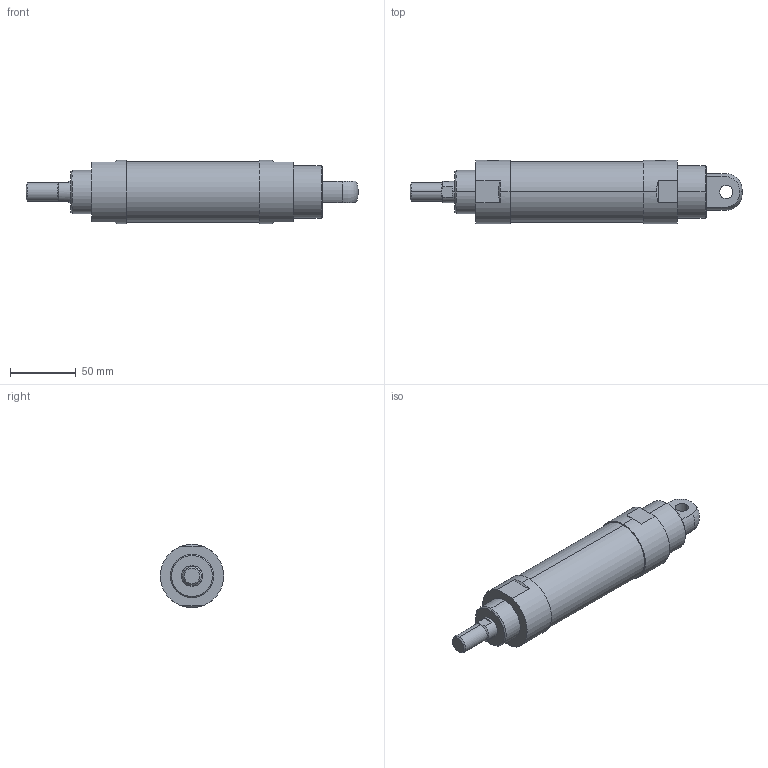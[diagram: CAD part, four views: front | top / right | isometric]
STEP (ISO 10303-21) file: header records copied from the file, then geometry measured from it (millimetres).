
FILE_DESCRIPTION (( 'STEP AP203' ), '1' );
FILE_NAME ('J#2-40-50-C.STEP', '2016-03-08T07:53:42', ( '' ), ( '' ), 'SwSTEP 2.0', 'SolidWorks 2014', '' );
FILE_SCHEMA (( 'CONFIG_CONTROL_DESIGN' ));
Length unit declared in the file: millimetre
Products named in the file (1): J#2-40-50-C
Bounding box: 252 x 48 x 48 mm (x, y, z)
Volume: 313883.6 mm3; surface area: 35470.8 mm2
Topology: 1 solids, 1 shells, 59 faces, 138 edges, 85 vertices
Faces by surface type: cylinder 22, plane 20, cone 15, torus 2
Entity records: 1988 total; most frequent: CARTESIAN_POINT 566, DIRECTION 293, ORIENTED_EDGE 268, EDGE_CURVE 134, AXIS2_PLACEMENT_3D 118, VERTEX_POINT 85, EDGE_LOOP 69, FACE_OUTER_BOUND 59
